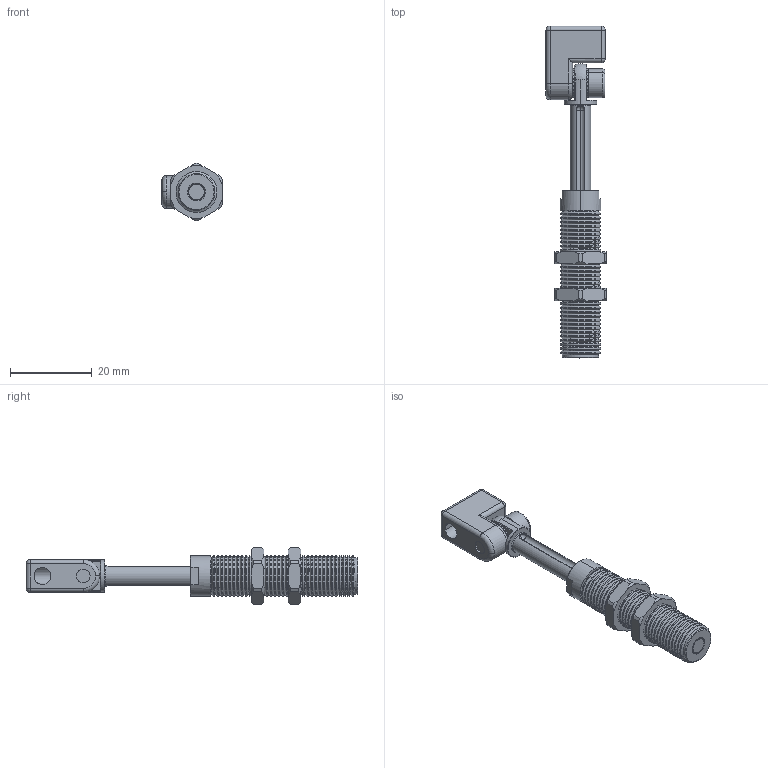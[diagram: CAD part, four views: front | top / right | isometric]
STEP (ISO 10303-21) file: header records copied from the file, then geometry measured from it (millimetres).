
FILE_DESCRIPTION (( 'STEP AP214' ), '1' );
FILE_NAME ('VFET1021-M5.STEP', '2023-03-09T02:17:58', ( 'Windows User' ), ( 'P R C' ), 'SwSTEP 2.0', 'SolidWorks 2019', '' );
FILE_SCHEMA (( 'AUTOMOTIVE_DESIGN' ));
Length unit declared in the file: millimetre
Products named in the file (8): 2.Y01799; PTS-M4; VFET1021-M5; VFE-M5籵蚚柲蜇芛; M10-1.0; VFNT1021-M5掛极; VFET1021-M5粣裝; hexagon socket head cap screws gb_GB_FASTENER_SCREWS_HSHCS M4X10-C
Assembly tree (9 placements, depth 2):
  VFET1021-M5
    VFNT1021-M5掛极
    VFET1021-M5粣裝
    2.Y01799
    M10-1.0  x2
    hexagon socket head cap screws gb_GB_FASTENER_SCREWS_HSHCS M4X10-C
    VFE-M5籵蚚柲蜇芛
    PTS-M4  x2
Bounding box: 14.7 x 81.2 x 14 mm (x, y, z)
Volume: 5254.4 mm3; surface area: 6257 mm2
Topology: 9 solids, 9 shells, 862 faces, 2237 edges, 1380 vertices
Faces by surface type: plane 444, cone 231, cylinder 161, sphere 16, torus 10
Entity records: 19251 total; most frequent: CARTESIAN_POINT 3518, DIRECTION 3427, ORIENTED_EDGE 3118, EDGE_CURVE 1559, AXIS2_PLACEMENT_3D 1307, VERTEX_POINT 936, LINE 813, VECTOR 813
